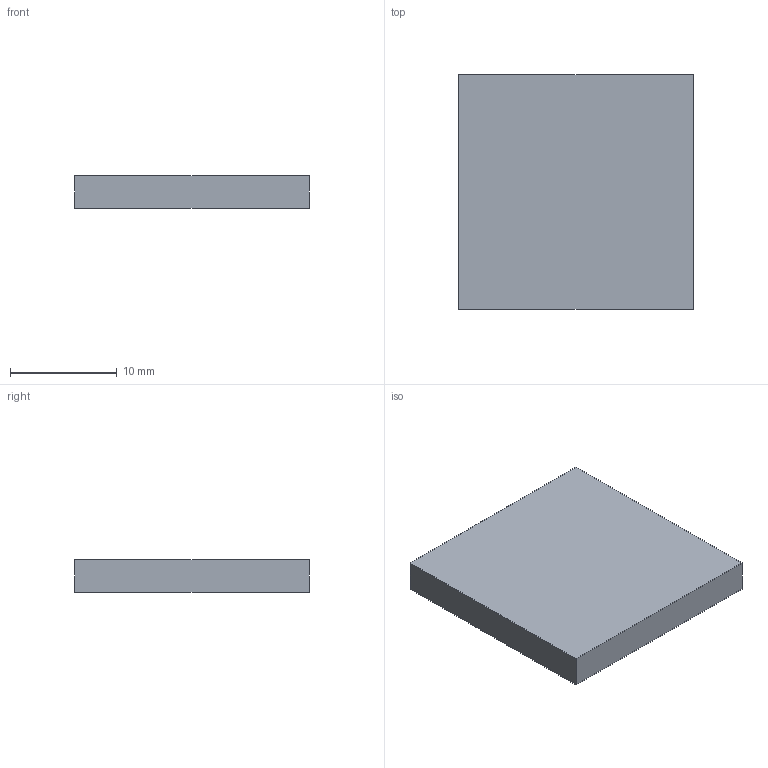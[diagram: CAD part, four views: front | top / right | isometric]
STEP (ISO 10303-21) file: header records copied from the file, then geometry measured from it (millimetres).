
FILE_DESCRIPTION(('Open CASCADE Model'),'2;1');
FILE_NAME('Open CASCADE Shape Model','2026-11-24T19:57:40',('Author'),( 'Open CASCADE'),'Open CASCADE STEP processor 7.8','Open CASCADE 7.8' ,'Unknown');
FILE_SCHEMA(('AUTOMOTIVE_DESIGN { 1 0 10303 214 1 1 1 1 }'));
Length unit declared in the file: millimetre
Products named in the file (1): Open CASCADE STEP translator 7.8 178
Bounding box: 22 x 22 x 3 mm (x, y, z)
Volume: 1452 mm3; surface area: 1232 mm2
Topology: 1 solids, 1 shells, 6 faces, 12 edges, 8 vertices
Faces by surface type: plane 6
Entity records: 322 total; most frequent: CARTESIAN_POINT 51, DIRECTION 50, LINE 36, VECTOR 36, ORIENTED_EDGE 24, PCURVE 24, DEFINITIONAL_REPRESENTATION 24, EDGE_CURVE 12
